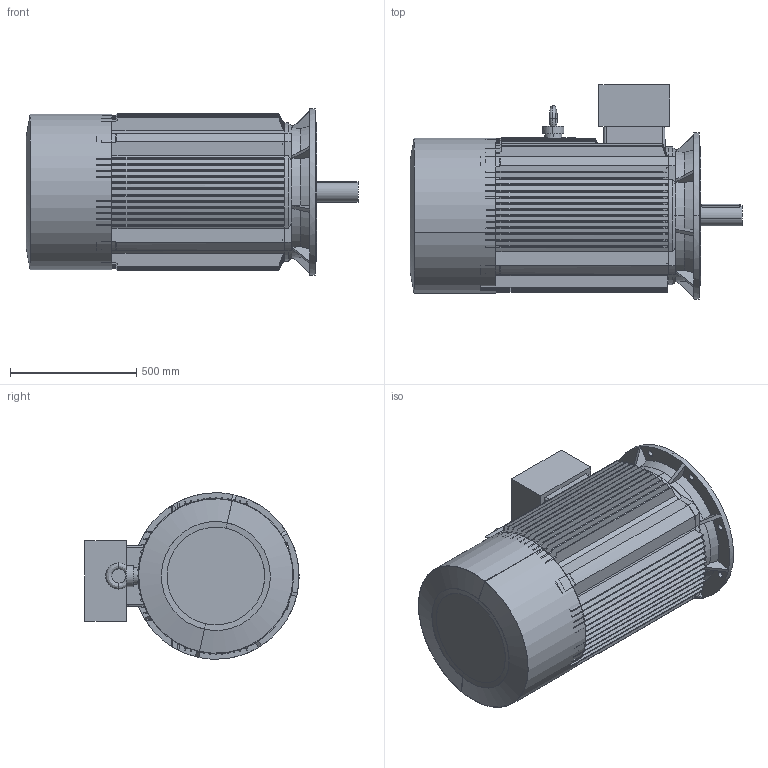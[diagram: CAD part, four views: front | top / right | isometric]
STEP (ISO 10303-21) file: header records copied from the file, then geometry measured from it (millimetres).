
FILE_DESCRIPTION (( 'STEP AP203' ), '1' );
FILE_NAME ('M3-315M-4p-FF-B5.STEP', '2019-07-09T11:15:30', ( '' ), ( '' ), 'SwSTEP 2.0', 'SolidWorks 2012', '' );
FILE_SCHEMA (( 'CONFIG_CONTROL_DESIGN' ));
Length unit declared in the file: millimetre
Products named in the file (7): Y2-315M-4Íß¦ð-Ô©Ã_-¼+¤; M3-315M-4p-FF-B5; Y2-315-4.6.8.10-ｦﾈﾁﾂ-ｩﾃ_-ｼ+､; Y2-315-2.4..6.8ﾀiﾍ_-ｼ+､; +ｷﾎｨB5-315M_-ｼ+､; Y2-315M-4ﾍﾟ_-ｼ+､; 315ﾁｧ+ﾀ_-ｼ+､
Assembly tree (6 placements, depth 2):
  M3-315M-4p-FF-B5
    Y2-315M-4ﾍﾟ_-ｼ+､
    +ｷﾎｨB5-315M_-ｼ+､
    Y2-315-2.4..6.8ﾀiﾍ_-ｼ+､
    315ﾁｧ+ﾀ_-ｼ+､
    Y2-315-4.6.8.10-ｦﾈﾁﾂ-ｩﾃ_-ｼ+､
    Y2-315M-4Íß¦ð-Ô©Ã_-¼+¤
Bounding box: 1316 x 849 x 660 mm (x, y, z)
Volume: 67175016.6 mm3; surface area: 9116599.3 mm2
Topology: 12 solids, 19 shells, 767 faces, 2051 edges, 1338 vertices
Faces by surface type: plane 331, cylinder 249, cone 118, bspline 69
Entity records: 32098 total; most frequent: CARTESIAN_POINT 13027, ORIENTED_EDGE 4104, DIRECTION 3412, EDGE_CURVE 2052, VERTEX_POINT 1338, AXIS2_PLACEMENT_3D 1260, VECTOR 892, LINE 892
